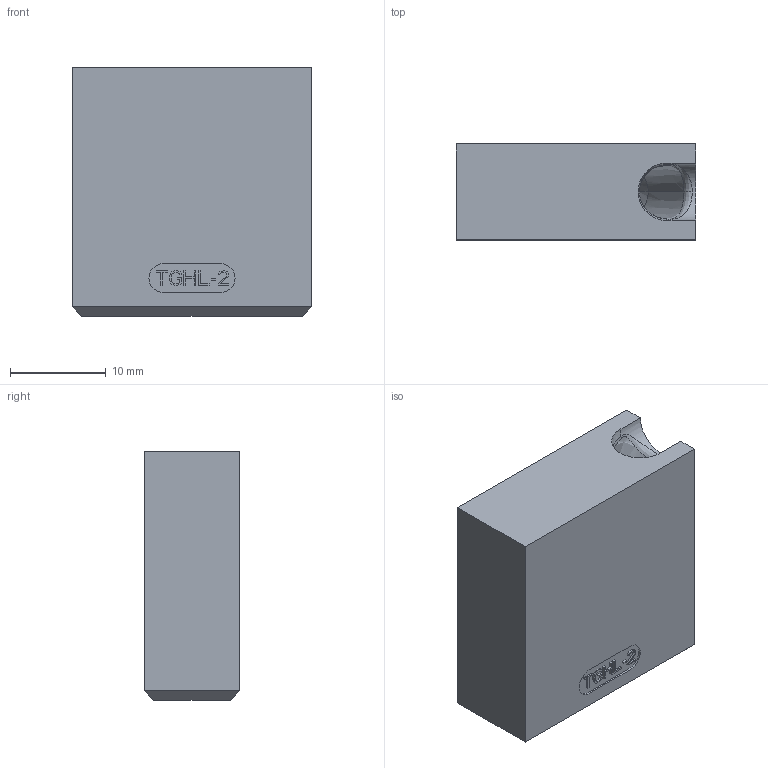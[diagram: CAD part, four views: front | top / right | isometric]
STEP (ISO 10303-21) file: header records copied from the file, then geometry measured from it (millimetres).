
FILE_DESCRIPTION((''),'2;1');
FILE_NAME('TGHL-2','2018-10-08T',('gsawatzky'),(''),'CREO PARAMETRIC BY PTC INC, 2016260','CREO PARAMETRIC BY PTC INC, 2016260','');
FILE_SCHEMA(('AUTOMOTIVE_DESIGN { 1 0 10303 214 1 1 1 1 }'));
Length unit declared in the file: millimetre
Products named in the file (1): TGHL-2
Bounding box: 25 x 10 x 26 mm (x, y, z)
Volume: 5867.5 mm3; surface area: 2910.5 mm2
Topology: 1 solids, 4 shells, 183 faces, 494 edges, 317 vertices
Faces by surface type: plane 143, bspline 12, cylinder 9, sphere 7, cone 4, torus 4, extrusion 2, revolution 2
Entity records: 9667 total; most frequent: CARTESIAN_POINT 3534, ORIENTED_EDGE 962, DIRECTION 858, PRESENTATION_STYLE_ASSIGNMENT 489, STYLED_ITEM 489, CURVE_STYLE 485, EDGE_CURVE 485, VECTOR 410
